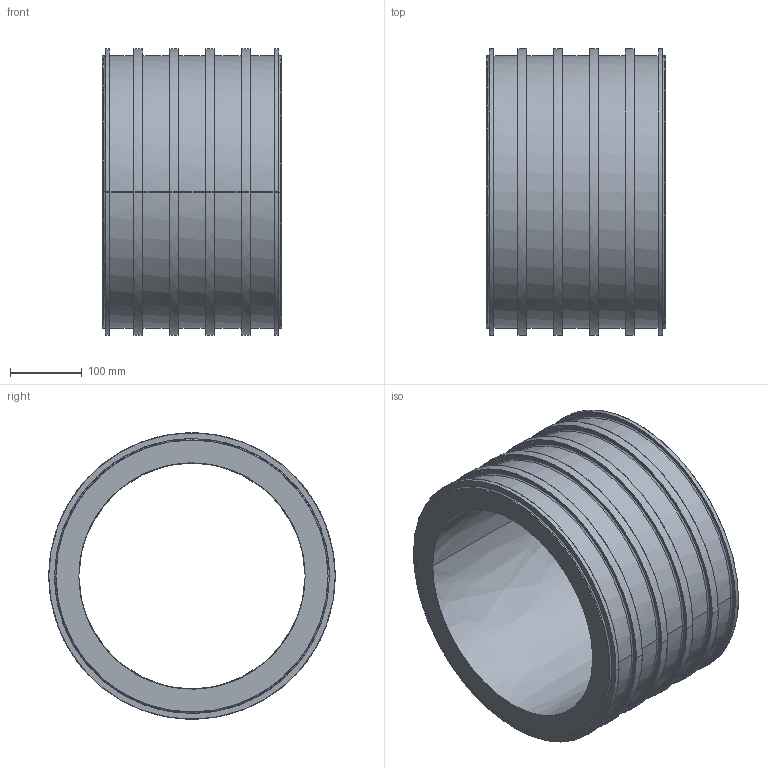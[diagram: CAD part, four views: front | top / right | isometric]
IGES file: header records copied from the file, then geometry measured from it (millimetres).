
Start section:  PTC IGES file: asfl_d280.igs
Global section: file name: asfl_d280.igs; native system: Pro/ENGINEER by Parametric Technology Corporation; preprocessor: 2011490; author: mtunjic; organization: Unknown; date: 20130730.084044; units: millimetre
Bounding box: 250 x 400 x 400 mm (x, y, z)
Surface area: 809697.1 mm2 (no closed solid volume)
Topology: 0 solids, 0 shells, 138 faces, 552 edges, 552 vertices
Faces by surface type: bspline 138
